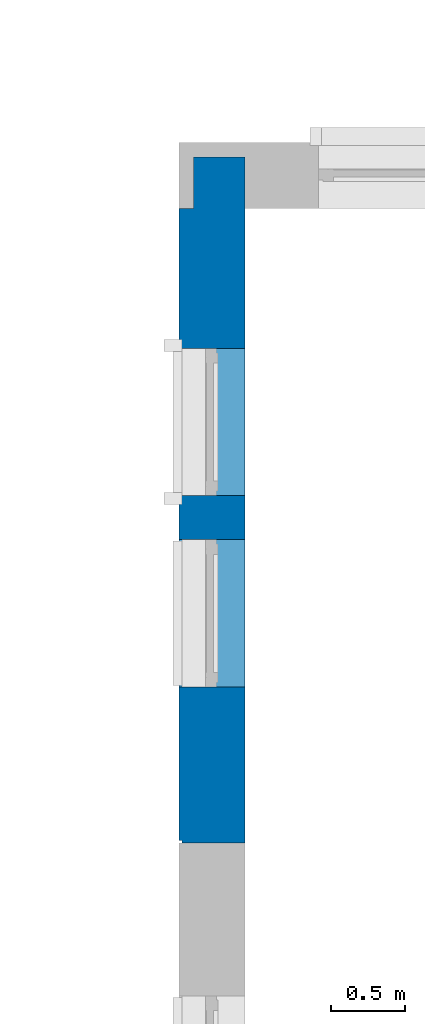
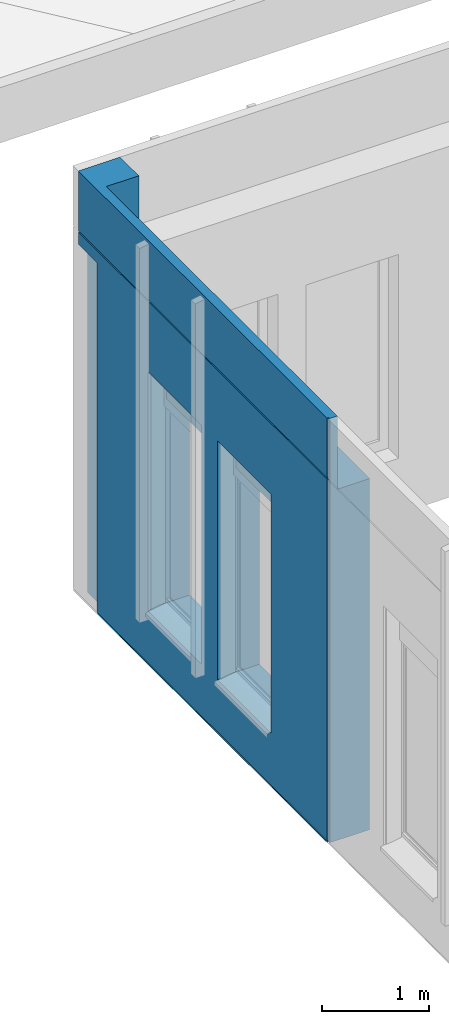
# One storey, part 11 of 33: 1 wall, 5 openings.
"""IFC2X3 building model written with IfcOpenShell, lengths in millimetres."""

from ifc_helpers import new_model, entity, si_unit, converted_unit, derived_unit, direction, frame, frame_2d, origin, place, context, subcontext, project, spatial, polyline, rectangle, extrude, clip, bounded_halfspace, faceted_brep, material, layer, layer_set, layer_usage, type_object, element, save


model = new_model("IFC2X3")

# Units and contexts
model_context = context("Model", 3, precision=0.01, world=origin(), true_north=direction((6.12303176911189e-17, 1.0)))
body_context = subcontext(model_context, "Body", "Model", "MODEL_VIEW")
ifc_project = project(units=[si_unit("LENGTHUNIT", "METRE", prefix="MILLI"), si_unit("AREAUNIT", "SQUARE_METRE"), si_unit("VOLUMEUNIT", "CUBIC_METRE"), converted_unit("PLANEANGLEUNIT", "DEGREE", entity("IfcRatioMeasure", 0.0174532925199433), si_unit("PLANEANGLEUNIT", "RADIAN"), dimensions=[0, 0, 0, 0, 0, 0, 0]), si_unit("MASSUNIT", "GRAM", prefix="KILO"), derived_unit("MASSDENSITYUNIT", [(si_unit("MASSUNIT", "GRAM", prefix="KILO"), 1), (si_unit("LENGTHUNIT", "METRE"), -3)]), si_unit("TIMEUNIT", "SECOND"), si_unit("FREQUENCYUNIT", "HERTZ"), si_unit("THERMODYNAMICTEMPERATUREUNIT", "DEGREE_CELSIUS"), derived_unit("THERMALTRANSMITTANCEUNIT", [(si_unit("MASSUNIT", "GRAM", prefix="KILO"), 1), (si_unit("THERMODYNAMICTEMPERATUREUNIT", "KELVIN"), -1), (si_unit("TIMEUNIT", "SECOND"), -3)]), derived_unit("VOLUMETRICFLOWRATEUNIT", [(si_unit("LENGTHUNIT", "METRE"), 3), (si_unit("TIMEUNIT", "SECOND"), -1)]), si_unit("ELECTRICCURRENTUNIT", "AMPERE"), si_unit("ELECTRICVOLTAGEUNIT", "VOLT"), si_unit("POWERUNIT", "WATT"), si_unit("FORCEUNIT", "NEWTON", prefix="KILO"), si_unit("ILLUMINANCEUNIT", "LUX"), si_unit("LUMINOUSFLUXUNIT", "LUMEN"), si_unit("LUMINOUSINTENSITYUNIT", "CANDELA"), derived_unit("USERDEFINED", [(si_unit("MASSUNIT", "GRAM", prefix="KILO"), -1), (si_unit("LENGTHUNIT", "METRE"), -2), (si_unit("TIMEUNIT", "SECOND"), 3), (si_unit("LUMINOUSFLUXUNIT", "LUMEN"), 1)]), derived_unit("LINEARVELOCITYUNIT", [(si_unit("LENGTHUNIT", "METRE"), 1), (si_unit("TIMEUNIT", "SECOND"), -1)]), si_unit("PRESSUREUNIT", "PASCAL"), derived_unit("USERDEFINED", [(si_unit("LENGTHUNIT", "METRE"), -2), (si_unit("MASSUNIT", "GRAM", prefix="KILO"), 1), (si_unit("TIMEUNIT", "SECOND"), -2)])], contexts=[model_context])

# Site, building, storey
site_placement = place(None, origin())
site = spatial("IfcSite", under=ifc_project, at=site_placement, Name="Default", CompositionType="ELEMENT")
building_placement = place(site_placement, origin())
building = spatial("IfcBuilding", under=site, at=building_placement, CompositionType="ELEMENT")
storey_placement = place(building_placement, frame((0.0, 0.0, 4000.0)))
storey = spatial("IfcBuildingStorey", under=building, at=storey_placement, Name="2. KORRUS", CompositionType="ELEMENT", Elevation=4000.0)

# Wall, openings
ifc_material_1 = material(Name="RECKLI 1 173 THUR by Polantis 2016-toon4")
ifc_layer_1 = layer(ifc_material_1, 100.0)
ifc_material_2 = material(Name="Soojusisolatsioon EPS")
ifc_layer_2 = layer(ifc_material_2, 200.0)
ifc_material_3 = material(Name="r/b")
ifc_layer_3 = layer(ifc_material_3, 150.0)
ifc_layer_set = layer_set([ifc_layer_1, ifc_layer_2, ifc_layer_3], Name="Basic Wall:VS-1_toon-a")
ifc_layer_usage = layer_usage(ifc_layer_set, "AXIS2", "POSITIVE", -225.0)
wall_type = type_object("IfcWallType", Name="Basic Wall:VS-1_toon-a", PredefinedType="STANDARD", material=ifc_layer_set)
wall_placement = place(storey_placement, frame((-225.0, 27950.0, -135.0), z_axis=(0.0, 0.0, 1.0), x_axis=(0.0, -1.0, 0.0)))
wall = element("IfcWallStandardCase", 1, at=wall_placement, inside=storey, type_object=wall_type, material=ifc_layer_usage, Name="Basic Wall:VS-1_toon-a", ObjectType="Basic Wall:VS-1_toon-a", context=body_context, shape_type="Clipping", body=[
    clip(clip(extrude(rectangle(XDim=4660.0, YDim=450.0, at=frame_2d((2330.0, -2.8421709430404e-14), x_axis=(-1.0, 0.0))), origin(), (0.0, 0.0, 1.0), 4835.0), bounded_halfspace(frame((4660.0, 225.0, 4000.0), z_axis=(0.0, 0.0, 1.0), x_axis=(0.0, 1.0, 0.0)), False, frame((4660.0, 225.0, 4000.0)), polyline([(0.0, 0.0), (-4310.0, 0.0), (-4310.0, -350.0), (0.0, -350.0), (0.0, 0.0)]))), bounded_halfspace(frame((0.0, -125.0, 4000.0), z_axis=(0.0, 0.0, -1.0), x_axis=(1.0, 0.0, 0.0)), False, frame((0.0, -125.0, 4000.0)), polyline([(0.0, 0.0), (0.0, -100.0), (350.0, -100.0), (350.0, 0.0), (0.0, 0.0)]))),
])
opening_1_placement = place(wall_placement, frame((28400.0, -225.0, 4.0)))
element("IfcOpeningElement", 2, at=opening_1_placement, cuts=wall, Name="Basic Wall:VS-1_toon-a", ObjectType="Opening", context=body_context, shape_type="Brep", body=[
    faceted_brep([(-20.0, 11850.0, 16.0), (0.0, 11850.0, 16.0), (0.0, 11850.0, 0.0), (-20.0, 11850.0, 0.0), (-20.0, 4260.0, 16.0), (-20.0, 4260.0, 0.0), (0.0, 4260.0, 0.0), (0.0, 4260.0, 16.0)], [[[0, 1, 2, 3]], [[4, 5, 6, 7]], [[1, 0, 4, 7]], [[2, 1, 7, 6]], [[3, 2, 6, 5]], [[0, 3, 5, 4]]]),
    faceted_brep([(-28480.0, 20.0, 16.0), (-28480.0, 20.0, 0.0), (-28500.0, 0.0, 0.0), (-28500.0, 0.0, 16.0), (-23740.0, 20.0, 16.0), (-23740.0, 0.0, 16.0), (-23740.0, 0.0, 0.0), (-23740.0, 20.0, 0.0)], [[[0, 1, 2, 3]], [[4, 5, 6, 7]], [[1, 0, 4, 7]], [[2, 1, 7, 6]], [[3, 2, 6, 5]], [[0, 3, 5, 4]]]),
    faceted_brep([(-22380.0517807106, 10080.0, 16.0), (-22400.0517807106, 10100.0, 16.0), (-22400.0517807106, 10100.0, 0.0), (-22380.0517807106, 10080.0, 0.0), (-22380.0517807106, 15330.3475962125, 16.0), (-22380.0517807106, 15330.3475962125, 0.0), (-22400.0517807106, 15330.3475962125, 0.0), (-22400.0517807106, 15330.3475962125, 16.0)], [[[0, 1, 2, 3]], [[4, 5, 6, 7]], [[1, 0, 4, 7]], [[2, 1, 7, 6]], [[3, 2, 6, 5]], [[0, 3, 5, 4]]]),
    faceted_brep([(-28480.0, 20.0, 16.0), (-28500.0, 0.0, 16.0), (-28500.0, 0.0, 0.0), (-28480.0, 20.0, 0.0), (-28480.0, 4360.0, 16.0), (-28480.0, 4360.0, 0.0), (-28500.0, 4360.0, 0.0), (-28500.0, 4360.0, 16.0)], [[[0, 1, 2, 3]], [[4, 5, 6, 7]], [[1, 0, 4, 7]], [[2, 1, 7, 6]], [[3, 2, 6, 5]], [[0, 3, 5, 4]]]),
    faceted_brep([(-20.0, 40380.0, 16.0), (0.0, 40400.0, 16.0), (0.0, 40400.0, 0.0), (-20.0, 40380.0, 0.0), (-20.0, 35250.0, 16.0), (-20.0, 35250.0, 0.0), (0.0, 35250.0, 0.0), (0.0, 35250.0, 16.0)], [[[0, 1, 2, 3]], [[4, 5, 6, 7]], [[1, 0, 4, 7]], [[2, 1, 7, 6]], [[3, 2, 6, 5]], [[0, 3, 5, 4]]]),
    faceted_brep([(-22380.0517807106, 34420.1035702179, 16.0), (-22400.0517807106, 34420.1035702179, 16.0), (-22400.0517807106, 34420.1035702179, 0.0), (-22380.0517807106, 34420.1035702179, 0.0), (-22380.0517807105, 40380.0, 16.0), (-22380.0517807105, 40380.0, 0.0), (-22400.0517807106, 40400.0, 0.0), (-22400.0517807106, 40400.0, 16.0)], [[[0, 1, 2, 3]], [[4, 5, 6, 7]], [[1, 0, 4, 7]], [[2, 1, 7, 6]], [[3, 2, 6, 5]], [[0, 3, 5, 4]]]),
    faceted_brep([(-22380.0517807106, 29113.2161487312, 16.0), (-22400.0517807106, 29113.2161487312, 16.0), (-22400.0517807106, 29113.2161487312, 0.0), (-22380.0517807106, 29113.2161487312, 0.0), (-22380.0517807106, 34420.1035702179, 16.0), (-22380.0517807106, 34420.1035702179, 0.0), (-22400.0517807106, 34420.1035702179, 0.0), (-22400.0517807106, 34420.1035702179, 16.0)], [[[0, 1, 2, 3]], [[4, 5, 6, 7]], [[1, 0, 4, 7]], [[2, 1, 7, 6]], [[3, 2, 6, 5]], [[0, 3, 5, 4]]]),
    faceted_brep([(-28480.0, 10080.0, 16.0), (-28500.0, 10100.0, 16.0), (-28500.0, 10100.0, 0.0), (-28480.0, 10080.0, 0.0), (-22380.0517807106, 10080.0, 16.0), (-22380.0517807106, 10080.0, 0.0), (-22400.0517807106, 10100.0, 0.0), (-22400.0517807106, 10100.0, 16.0)], [[[0, 1, 2, 3]], [[4, 5, 6, 7]], [[1, 0, 4, 7]], [[2, 1, 7, 6]], [[3, 2, 6, 5]], [[0, 3, 5, 4]]]),
    faceted_brep([(-20.0, 4260.0, 16.0), (0.0, 4260.0, 16.0), (0.0, 4260.0, 0.0), (-20.0, 4260.0, 0.0), (-20.0, 0.0, 16.0), (-20.0, 0.0, 0.0), (0.0, 0.0, 0.0), (0.0, 0.0, 16.0)], [[[0, 1, 2, 3]], [[4, 5, 6, 7]], [[1, 0, 4, 7]], [[2, 1, 7, 6]], [[3, 2, 6, 5]], [[0, 3, 5, 4]]]),
    faceted_brep([(-4865.0, 40380.0, 16.0), (-4865.0, 40400.0, 16.0), (-4865.0, 40400.0, 0.0), (-4865.0, 40380.0, 0.0), (-20.0, 40380.0, 16.0), (-20.0, 40380.0, 0.0), (0.0, 40400.0, 0.0), (0.0, 40400.0, 16.0)], [[[0, 1, 2, 3]], [[4, 5, 6, 7]], [[1, 0, 4, 7]], [[2, 1, 7, 6]], [[3, 2, 6, 5]], [[0, 3, 5, 4]]]),
    faceted_brep([(-9093.33000000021, 40380.0, 16.0), (-9093.33000000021, 40400.0, 16.0), (-9093.33000000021, 40400.0, 0.0), (-9093.33000000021, 40380.0, 0.0), (-4865.0, 40380.0, 16.0), (-4865.0, 40380.0, 0.0), (-4865.0, 40400.0, 0.0), (-4865.0, 40400.0, 16.0)], [[[0, 1, 2, 3]], [[4, 5, 6, 7]], [[1, 0, 4, 7]], [[2, 1, 7, 6]], [[3, 2, 6, 5]], [[0, 3, 5, 4]]]),
    faceted_brep([(-13210.0, 40380.0, 16.0), (-13210.0, 40400.0, 16.0), (-13210.0, 40400.0, 0.0), (-13210.0, 40380.0, 0.0), (-9093.33000000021, 40380.0, 16.0), (-9093.33000000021, 40380.0, 0.0), (-9093.33000000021, 40400.0, 0.0), (-9093.33000000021, 40400.0, 16.0)], [[[0, 1, 2, 3]], [[4, 5, 6, 7]], [[1, 0, 4, 7]], [[2, 1, 7, 6]], [[3, 2, 6, 5]], [[0, 3, 5, 4]]]),
    faceted_brep([(-16240.0, 40380.0, 16.0), (-16240.0, 40400.0, 16.0), (-16240.0, 40400.0, 0.0), (-16240.0, 40380.0, 0.0), (-13210.0, 40380.0, 16.0), (-13210.0, 40380.0, 0.0), (-13210.0, 40400.0, 0.0), (-13210.0, 40400.0, 16.0)], [[[0, 1, 2, 3]], [[4, 5, 6, 7]], [[1, 0, 4, 7]], [[2, 1, 7, 6]], [[3, 2, 6, 5]], [[0, 3, 5, 4]]]),
    faceted_brep([(-22380.0517807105, 40380.0, 16.0), (-22400.0517807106, 40400.0, 16.0), (-22400.0517807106, 40400.0, 0.0), (-22380.0517807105, 40380.0, 0.0), (-16240.0, 40380.0, 16.0), (-16240.0, 40380.0, 0.0), (-16240.0, 40400.0, 0.0), (-16240.0, 40400.0, 16.0)], [[[0, 1, 2, 3]], [[4, 5, 6, 7]], [[1, 0, 4, 7]], [[2, 1, 7, 6]], [[3, 2, 6, 5]], [[0, 3, 5, 4]]]),
    faceted_brep([(-22380.0517807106, 22535.0, 16.0), (-22400.0517807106, 22535.0, 16.0), (-22400.0517807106, 22535.0, 0.0), (-22380.0517807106, 22535.0, 0.0), (-22380.0517807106, 29113.2161487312, 16.0), (-22380.0517807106, 29113.2161487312, 0.0), (-22400.0517807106, 29113.2161487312, 0.0), (-22400.0517807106, 29113.2161487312, 16.0)], [[[0, 1, 2, 3]], [[4, 5, 6, 7]], [[1, 0, 4, 7]], [[2, 1, 7, 6]], [[3, 2, 6, 5]], [[0, 3, 5, 4]]]),
    faceted_brep([(-22380.0517807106, 18703.3528910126, 16.0), (-22400.0517807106, 18703.3528910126, 16.0), (-22400.0517807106, 18703.3528910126, 0.0), (-22380.0517807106, 18703.3528910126, 0.0), (-22380.0517807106, 22535.0, 16.0), (-22380.0517807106, 22535.0, 0.0), (-22400.0517807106, 22535.0, 0.0), (-22400.0517807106, 22535.0, 16.0)], [[[0, 1, 2, 3]], [[4, 5, 6, 7]], [[1, 0, 4, 7]], [[2, 1, 7, 6]], [[3, 2, 6, 5]], [[0, 3, 5, 4]]]),
    faceted_brep([(-22380.0517807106, 15330.3475962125, 16.0), (-22400.0517807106, 15330.3475962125, 16.0), (-22400.0517807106, 15330.3475962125, 0.0), (-22380.0517807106, 15330.3475962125, 0.0), (-22380.0517807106, 18703.3528910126, 16.0), (-22380.0517807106, 18703.3528910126, 0.0), (-22400.0517807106, 18703.3528910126, 0.0), (-22400.0517807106, 18703.3528910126, 16.0)], [[[0, 1, 2, 3]], [[4, 5, 6, 7]], [[1, 0, 4, 7]], [[2, 1, 7, 6]], [[3, 2, 6, 5]], [[0, 3, 5, 4]]]),
    faceted_brep([(-28480.0, 4360.0, 16.0), (-28500.0, 4360.0, 16.0), (-28500.0, 4360.0, 0.0), (-28480.0, 4360.0, 0.0), (-28480.0, 10080.0, 16.0), (-28480.0, 10080.0, 0.0), (-28500.0, 10100.0, 0.0), (-28500.0, 10100.0, 16.0)], [[[0, 1, 2, 3]], [[4, 5, 6, 7]], [[1, 0, 4, 7]], [[2, 1, 7, 6]], [[3, 2, 6, 5]], [[0, 3, 5, 4]]]),
    faceted_brep([(-23740.0, 20.0, 16.0), (-23740.0, 20.0, 0.0), (-23740.0, 0.0, 0.0), (-23740.0, 0.0, 16.0), (-16890.0006972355, 20.0, 16.0), (-16890.0006972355, 0.0, 16.0), (-16890.0006972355, 0.0, 0.0), (-16890.0006972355, 20.0, 0.0)], [[[0, 1, 2, 3]], [[4, 5, 6, 7]], [[1, 0, 4, 7]], [[2, 1, 7, 6]], [[3, 2, 6, 5]], [[0, 3, 5, 4]]]),
    faceted_brep([(-16890.0006972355, 20.0, 16.0), (-16890.0006972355, 20.0, 0.0), (-16890.0006972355, 0.0, 0.0), (-16890.0006972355, 0.0, 16.0), (-13460.0, 20.0, 16.0), (-13460.0, 0.0, 16.0), (-13460.0, 0.0, 0.0), (-13460.0, 20.0, 0.0)], [[[0, 1, 2, 3]], [[4, 5, 6, 7]], [[1, 0, 4, 7]], [[2, 1, 7, 6]], [[3, 2, 6, 5]], [[0, 3, 5, 4]]]),
])
opening_2_placement = place(wall_placement, origin())
element("IfcOpeningElement", 3, at=opening_2_placement, cuts=wall, Name="Basic Wall:VS-1_toon-a", ObjectType="Recess", context=body_context, shape_type="SweptSolid", body=[
    extrude(rectangle(XDim=4265.0, YDim=16.0000000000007, at=frame_2d((0.0, -2.16626716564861e-12), x_axis=(1.0, 0.0))), frame((4651.99882276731, -225.0, -2132.5), z_axis=(0.0, 1.0, 0.0), x_axis=(0.0, 0.0, -1.0)), (0.0, 0.0, 1.0), 20.0),
    extrude(rectangle(XDim=4835.0, YDim=16.0000000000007, at=frame_2d((4.54747350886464e-13, -2.16626716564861e-12), x_axis=(1.0, 0.0))), frame((4651.99882276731, -225.0, 2417.5), z_axis=(0.0, 1.0, 0.0), x_axis=(0.0, 0.0, -1.0)), (0.0, 0.0, 1.0), 20.0),
])
opening_3_placement = place(wall_placement, origin())
element("IfcOpeningElement", 4, at=opening_3_placement, cuts=wall, Name="Basic Wall:VS-1_toon-a", ObjectType="Recess", context=body_context, shape_type="SweptSolid", body=[
    extrude(rectangle(XDim=15.9999999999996, YDim=20.0, at=frame_2d((-3.37507799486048e-14, 5.40900657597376e-13), x_axis=(0.0, 1.0))), frame((28390.0, 4035.0, 4147.0), z_axis=(0.0, 1.0, 0.0), x_axis=(1.0, 0.0, 0.0)), (0.0, 0.0, 1.0), 7590.0),
    extrude(rectangle(XDim=15.9999999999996, YDim=4660.0, at=frame_2d((-2.27373675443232e-12, 5.40900657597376e-13), x_axis=(0.0, 1.0))), frame((2330.0, -225.0, 4147.0), z_axis=(0.0, 1.0, 0.0), x_axis=(1.0, 0.0, 0.0)), (0.0, 0.0, 1.0), 20.0000000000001),
    extrude(rectangle(XDim=15.9999999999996, YDim=19.9999999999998, at=frame_2d((5.40900657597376e-13, -2.16626716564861e-12), x_axis=(1.0, 0.0))), frame((6009.94821928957, 9875.0, 4147.0), z_axis=(0.0, 1.0, 0.0), x_axis=(0.0, 0.0, -1.0)), (0.0, 0.0, 1.0), 5230.3475962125),
    extrude(rectangle(XDim=15.9999999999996, YDim=19.9999999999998, at=frame_2d((5.40900657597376e-13, -2.16626716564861e-12), x_axis=(1.0, 0.0))), frame((-90.0, -225.0, 4147.0), z_axis=(0.0, 1.0, 0.0), x_axis=(0.0, 0.0, -1.0)), (0.0, 0.0, 1.0), 4360.0),
    extrude(rectangle(XDim=15.9999999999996, YDim=20.0, at=frame_2d((-3.37507799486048e-14, -5.40900657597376e-13), x_axis=(0.0, 1.0))), frame((28390.0, 35025.0, 4147.0), z_axis=(0.0, 1.0, 0.0), x_axis=(1.0, 0.0, 0.0)), (0.0, 0.0, 1.0), 5050.0),
    extrude(rectangle(XDim=15.9999999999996, YDim=19.9999999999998, at=frame_2d((5.40900657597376e-13, -2.16626716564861e-12), x_axis=(1.0, 0.0))), frame((6009.9482192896, 34195.1035702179, 4147.0), z_axis=(0.0, 1.0, 0.0), x_axis=(0.0, 0.0, -1.0)), (0.0, 0.0, 1.0), 5979.89642978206),
    extrude(rectangle(XDim=15.9999999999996, YDim=19.9999999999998, at=frame_2d((5.40900657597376e-13, -2.16626716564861e-12), x_axis=(1.0, 0.0))), frame((6009.94821928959, 28888.2161487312, 4147.0), z_axis=(0.0, 1.0, 0.0), x_axis=(0.0, 0.0, -1.0)), (0.0, 0.0, 1.0), 5306.88742148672),
    extrude(rectangle(XDim=15.9999999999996, YDim=6099.94821928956, at=frame_2d((0.0, 0.0), x_axis=(0.0, 1.0))), frame((3049.9741096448, 9855.0, 4147.0), z_axis=(0.0, 1.0, 0.0), x_axis=(1.0, 0.0, 0.0)), (0.0, 0.0, 1.0), 19.9999999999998),
    extrude(rectangle(XDim=15.9999999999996, YDim=20.0, at=frame_2d((-3.37507799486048e-14, 5.40900657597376e-13), x_axis=(0.0, 1.0))), frame((28390.0, -125.0, 4147.0), z_axis=(0.0, 1.0, 0.0), x_axis=(1.0, 0.0, 0.0)), (0.0, 0.0, 1.0), 4160.00000000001),
    extrude(rectangle(XDim=15.9999999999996, YDim=4865.0, at=frame_2d((0.0, 5.40900657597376e-13), x_axis=(0.0, 1.0))), frame((25967.5000000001, 40155.0, 4147.0), z_axis=(0.0, 1.0, 0.0), x_axis=(1.0, 0.0, 0.0)), (0.0, 0.0, 1.0), 20.0000000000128),
    extrude(rectangle(XDim=15.9999999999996, YDim=4228.33000000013, at=frame_2d((0.0, 0.0), x_axis=(0.0, 1.0))), frame((21420.835, 40155.0, 4147.0), z_axis=(0.0, 1.0, 0.0), x_axis=(1.0, 0.0, 0.0)), (0.0, 0.0, 1.0), 20.0000000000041),
    extrude(rectangle(XDim=15.9999999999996, YDim=4236.66999997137, at=frame_2d((1.13686837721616e-12, 0.0), x_axis=(0.0, 1.0))), frame((17188.3350000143, 40155.0, 4147.0), z_axis=(0.0, 1.0, 0.0), x_axis=(1.0, 0.0, 0.0)), (0.0, 0.0, 1.0), 19.9999999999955),
    extrude(rectangle(XDim=15.9999999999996, YDim=2910.00000002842, at=frame_2d((2.1600499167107e-12, 5.40900657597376e-13), x_axis=(0.0, 1.0))), frame((13615.0, 40155.0, 4147.0), z_axis=(0.0, 1.0, 0.0), x_axis=(1.0, 0.0, 0.0)), (0.0, 0.0, 1.0), 20.0000000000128),
    extrude(rectangle(XDim=15.9999999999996, YDim=6060.05178071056, at=frame_2d((0.0, 0.0), x_axis=(0.0, 1.0))), frame((9129.97410964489, 40155.0, 4147.0), z_axis=(0.0, 1.0, 0.0), x_axis=(1.0, 0.0, 0.0)), (0.0, 0.0, 1.0), 19.9999999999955),
    extrude(rectangle(XDim=15.9999999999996, YDim=19.9999999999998, at=frame_2d((5.40900657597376e-13, -2.16626716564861e-12), x_axis=(1.0, 0.0))), frame((6009.94821928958, 18478.3528910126, 4147.0), z_axis=(0.0, 1.0, 0.0), x_axis=(0.0, 0.0, -1.0)), (0.0, 0.0, 1.0), 3831.64710898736),
    extrude(rectangle(XDim=15.9999999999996, YDim=19.9999999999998, at=frame_2d((5.40900657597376e-13, -2.16626716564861e-12), x_axis=(1.0, 0.0))), frame((6009.94821928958, 15105.3475962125, 4147.0), z_axis=(0.0, 1.0, 0.0), x_axis=(0.0, 0.0, -1.0)), (0.0, 0.0, 1.0), 3373.00529480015),
    extrude(rectangle(XDim=15.9999999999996, YDim=19.9999999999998, at=frame_2d((5.40900657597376e-13, 2.16626716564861e-12), x_axis=(1.0, 0.0))), frame((-90.0, 4135.0, 4147.0), z_axis=(0.0, 1.0, 0.0), x_axis=(0.0, 0.0, -1.0)), (0.0, 0.0, 1.0), 5739.99999999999),
    extrude(rectangle(XDim=15.9999999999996, YDim=6849.99930276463, at=frame_2d((1.13686837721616e-12, 5.40900657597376e-13), x_axis=(0.0, 1.0))), frame((8084.99965138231, -225.0, 4147.0), z_axis=(0.0, 1.0, 0.0), x_axis=(1.0, 0.0, 0.0)), (0.0, 0.0, 1.0), 20.0),
    extrude(rectangle(XDim=15.9999999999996, YDim=3430.00069726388, at=frame_2d((1.02318153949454e-12, 5.40900657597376e-13), x_axis=(0.0, 1.0))), frame((13224.9996513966, -225.0, 4147.0), z_axis=(0.0, 1.0, 0.0), x_axis=(1.0, 0.0, 0.0)), (0.0, 0.0, 1.0), 20.0000000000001),
    extrude(rectangle(XDim=15.9999999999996, YDim=19.9999999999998, at=frame_2d((5.40900657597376e-13, -2.16626716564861e-12), x_axis=(1.0, 0.0))), frame((6009.94821928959, 22310.0, 4147.0), z_axis=(0.0, 1.0, 0.0), x_axis=(0.0, 0.0, -1.0)), (0.0, 0.0, 1.0), 6578.21614873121),
    extrude(rectangle(XDim=15.9999999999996, YDim=20.0, at=frame_2d((-3.37507799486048e-14, 5.40900657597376e-13), x_axis=(0.0, 1.0))), frame((28390.0, 11625.0, 4147.0), z_axis=(0.0, 1.0, 0.0), x_axis=(1.0, 0.0, 0.0)), (0.0, 0.0, 1.0), 4110.00000000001),
    extrude(rectangle(XDim=15.9999999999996, YDim=20.0, at=frame_2d((-3.37507799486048e-14, 5.40900657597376e-13), x_axis=(0.0, 1.0))), frame((28390.0, 15735.0, 4147.0), z_axis=(0.0, 1.0, 0.0), x_axis=(1.0, 0.0, 0.0)), (0.0, 0.0, 1.0), 4600.0),
    extrude(rectangle(XDim=15.9999999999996, YDim=20.0, at=frame_2d((3.37507799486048e-14, 5.40900657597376e-13), x_axis=(0.0, 1.0))), frame((28390.0, 20335.0, 4147.0), z_axis=(0.0, 1.0, 0.0), x_axis=(1.0, 0.0, 0.0)), (0.0, 0.0, 1.0), 4600.0),
    extrude(rectangle(XDim=15.9999999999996, YDim=20.0, at=frame_2d((3.37507799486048e-14, 5.40900657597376e-13), x_axis=(0.0, 1.0))), frame((28390.0, 24935.0, 4147.0), z_axis=(0.0, 1.0, 0.0), x_axis=(1.0, 0.0, 0.0)), (0.0, 0.0, 1.0), 5299.99999999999),
    extrude(rectangle(XDim=15.9999999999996, YDim=20.0, at=frame_2d((-3.37507799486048e-14, 5.40900657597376e-13), x_axis=(0.0, 1.0))), frame((28390.0, 30235.0, 4147.0), z_axis=(0.0, 1.0, 0.0), x_axis=(1.0, 0.0, 0.0)), (0.0, 0.0, 1.0), 4790.0),
    extrude(rectangle(XDim=15.9999999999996, YDim=4724.85920481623, at=frame_2d((6.82121026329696e-13, 5.40900657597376e-13), x_axis=(0.0, 1.0))), frame((17302.4296024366, -225.0, 4147.0), z_axis=(0.0, 1.0, 0.0), x_axis=(1.0, 0.0, 0.0)), (0.0, 0.0, 1.0), 20.0000000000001),
    extrude(rectangle(XDim=15.9999999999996, YDim=8735.1407951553, at=frame_2d((0.0, 5.40900657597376e-13), x_axis=(0.0, 1.0))), frame((24032.4296024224, -225.0, 4147.0), z_axis=(0.0, 1.0, 0.0), x_axis=(1.0, 0.0, 0.0)), (0.0, 0.0, 1.0), 20.0),
])
opening_4_placement = place(wall_placement, frame((2300.00028276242, -225.0, 613.057009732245), z_axis=(0.0, 0.0, 1.0), x_axis=(0.0, 1.0, 0.0)))
element("IfcOpeningElement", 5, at=opening_4_placement, cuts=wall, Name="Basic Wall:VS-1_toon-a", ObjectType="Opening", context=body_context, shape_type="Brep", body=[
    faceted_brep([(450.0, 0.0, 2346.94299026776), (450.0, 0.0, 21.9429902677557), (450.0, 1000.0, 21.9429902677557), (450.0, 1000.0, 2346.94299026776), (0.0, 1000.0, 2721.94299026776), (0.0, 1000.0, 0.0), (0.0, 0.0, 0.0), (0.0, 0.0, 2721.94299026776), (200.0, 0.0, 2346.94299026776), (200.0, 0.0, 2721.94299026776), (124.444881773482, 0.0, 21.9429902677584), (124.444881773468, 1000.0, 21.9429902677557), (200.0, 1000.0, 2721.94299026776), (200.0, 1000.0, 2346.94299026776)], [[[0, 1, 2, 3]], [[4, 5, 6, 7]], [[0, 8, 9, 7, 6, 10, 1]], [[1, 10, 11, 2]], [[2, 11, 5, 4, 12, 13, 3]], [[3, 13, 8, 0]], [[9, 8, 13, 12]], [[12, 4, 7, 9]], [[6, 5, 11, 10]]]),
])
opening_5_placement = place(wall_placement, frame((3600.00028276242, -225.0, 613.057009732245), z_axis=(0.0, 0.0, 1.0), x_axis=(0.0, 1.0, 0.0)))
element("IfcOpeningElement", 6, at=opening_5_placement, cuts=wall, Name="Basic Wall:VS-1_toon-a", ObjectType="Opening", context=body_context, shape_type="Brep", body=[
    faceted_brep([(450.0, 0.0, 2346.94299026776), (450.0, 0.0, 21.9429902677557), (450.0, 1000.0, 21.9429902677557), (450.0, 1000.0, 2346.94299026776), (0.0, 1000.0, 2721.94299026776), (0.0, 1000.0, 0.0), (0.0, 0.0, 0.0), (0.0, 0.0, 2721.94299026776), (200.0, 0.0, 2346.94299026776), (200.0, 0.0, 2721.94299026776), (124.444881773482, 0.0, 21.9429902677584), (124.444881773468, 1000.0, 21.9429902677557), (200.0, 1000.0, 2721.94299026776), (200.0, 1000.0, 2346.94299026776)], [[[0, 1, 2, 3]], [[4, 5, 6, 7]], [[0, 8, 9, 7, 6, 10, 1]], [[1, 10, 11, 2]], [[2, 11, 5, 4, 12, 13, 3]], [[3, 13, 8, 0]], [[9, 8, 13, 12]], [[12, 4, 7, 9]], [[6, 5, 11, 10]]]),
])

save(model, "model.ifc")
